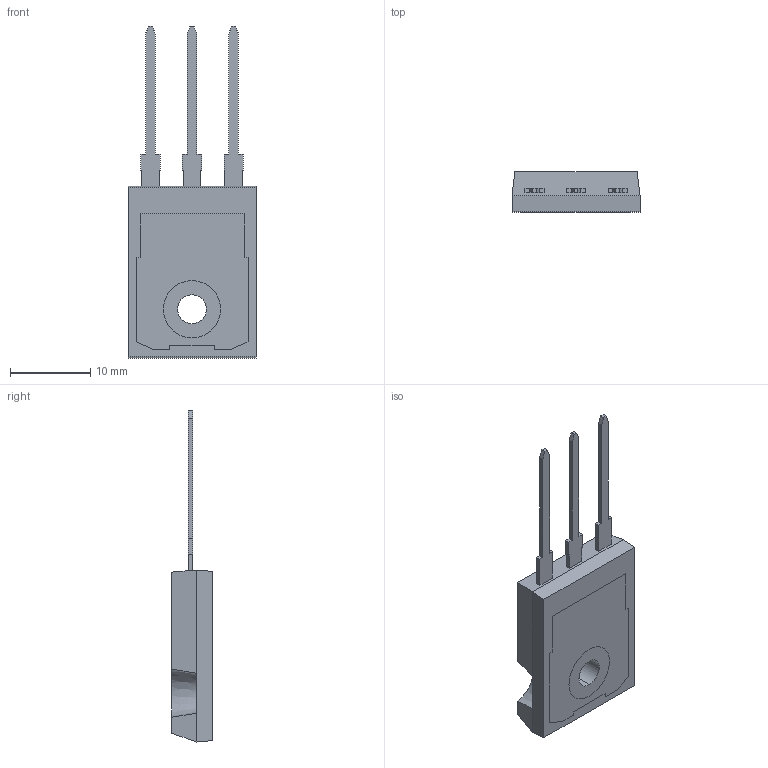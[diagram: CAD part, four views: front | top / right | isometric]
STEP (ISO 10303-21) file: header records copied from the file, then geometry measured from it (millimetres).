
FILE_DESCRIPTION (( 'STEP AP203' ), '1' );
FILE_NAME ('TO-247AD-3LD.STEP', '2020-11-25T08:54:34', ( '' ), ( '' ), 'SwSTEP 2.0', 'SolidWorks 2020', '' );
FILE_SCHEMA (( 'CONFIG_CONTROL_DESIGN' ));
Length unit declared in the file: millimetre
Products named in the file (1): TO-247AD-3LD
Bounding box: 16 x 5.02 x 41.5 mm (x, y, z)
Volume: 1594.2 mm3; surface area: 1303.4 mm2
Topology: 1 solids, 1 shells, 67 faces, 186 edges, 128 vertices
Faces by surface type: plane 63, cone 2, cylinder 2
Entity records: 2215 total; most frequent: CARTESIAN_POINT 394, ORIENTED_EDGE 372, DIRECTION 332, EDGE_CURVE 186, VECTOR 168, LINE 168, VERTEX_POINT 128, AXIS2_PLACEMENT_3D 82
